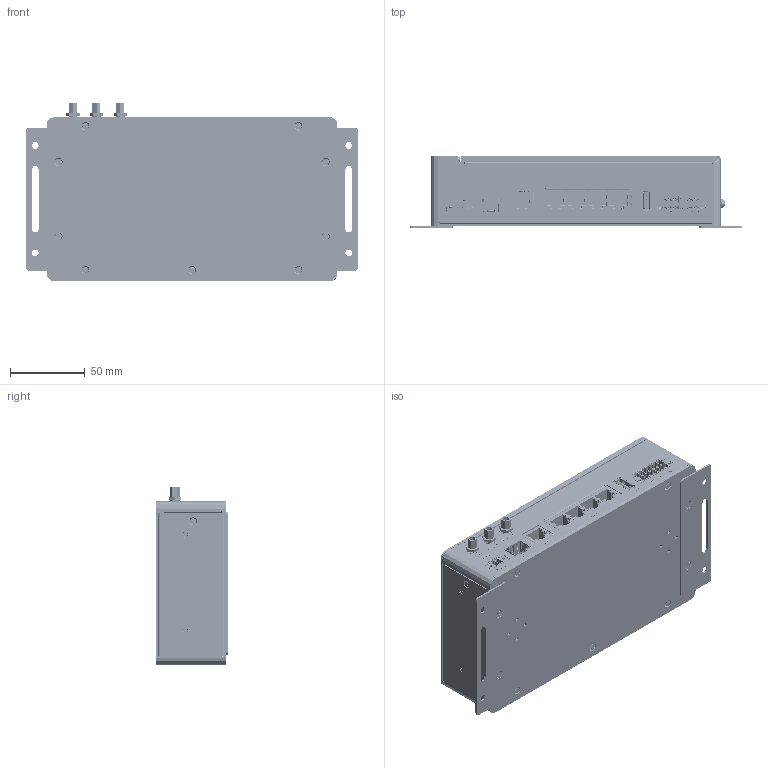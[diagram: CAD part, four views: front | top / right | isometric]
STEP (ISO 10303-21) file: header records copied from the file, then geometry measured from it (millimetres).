
FILE_DESCRIPTION (( 'STEP AP203' ), '1' );
FILE_NAME ('VRM-2021-57-1_ICR-4401W.STEP', '2021-06-04T09:21:01', ( '' ), ( '' ), 'SwSTEP 2.0', 'SolidWorks 2021', '' );
FILE_SCHEMA (( 'CONFIG_CONTROL_DESIGN' ));
Length unit declared in the file: millimetre
Products named in the file (49): 1700004434._默__3; 1700004434._默__2; VRM-2021-57-1_ICR-4401W; Nameplate_ICR-4401_4; 1930001782_S_S D=5 FH=120+M2.5X5L ST BZn_默_; Nameplate_ICR-4401; Thermal pad 17x17 t=1.5mm;k6; Mini pccie Heat sink_ICR-4000; lightpipe tray_ICR-4000; 1930004041-11_默__2; Thermal pad 44x29 t=2mm;K6; Tray_ICR-4000; 1930005199_默_; 1930008006_M3 TORX Screw; 1700004434._默_; Nameplate_ICR-4401_3; 1935130610_默_; 1930000741-11_默__3; 1935130610_默__2; 19310305C0_默_; B-ICR44xx-4.a_3D-2021-02-05_ver2; Thermal pad 14x9 T=2.5mm,K=6; Nameplate_ICR-4401_2; Nameplate_ICR-4401_7; 1700004434._默__4; CPU Heat sink_ICR-4000; lightpipe assembly_ICR-4000; 1930000741-11_默_; sim cover_ICR-4000_ICR-4401; Back cover_ICR-4000_ICR-4401; 1990033157N000_Thermal pad46x30,T=1.5 k4; Top Cover_ICR-4000; led lightpipe; 1930003479_默_; Bottom cover_ICR-4000; 1930004041-11_默__3; Wall Bracket_ICR-4000; 1930000741-11_默__2; Nameplate_ICR-4401_6; Nameplate_ICR-4401_5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
Assembly tree (81 placements, depth 3):
  VRM-2021-57-1_ICR-4401W
    Top Cover_ICR-4000
    CPU Heat sink_ICR-4000
    Mini pccie Heat sink_ICR-4000
    Front cover_ICR-4000_ICR-4401W
    Back cover_ICR-4000_ICR-4401
    Bottom cover_ICR-4000
    sim cover_ICR-4000_ICR-4401
    1930001782_S_S D=5 FH=120+M2.5X5L ST BZn_默_
    Tray_ICR-4000
    Wall Bracket_ICR-4000  x2
    1700004434._默_  x3
      1700004434._默__2
      1700004434._默__4
      1700004434._默_
      1700004434._默__3
    lightpipe assembly_ICR-4000
      led lightpipe
      lightpipe tray_ICR-4000
    ADVANTECH Label_ICR-4000
    1930003479_默_  x10
    19310305C0_默_  x4
    1930005199_默_  x2
    1930000741-11_默_  x4
      1930000741-11_默_
      1930000741-11_默__3
      1930000741-11_默__2
    1930008006_M3 TORX Screw  x9
    1930004041-11_默_  x6
      1930004041-11_默_
      1930004041-11_默__3
      1930004041-11_默__2
    Thermal pad 14x9 T=2.5mm,K=6  x2
    Thermal pad 17x17 t=1.5mm;k6
    Thermal pad 44x29 t=2mm;K6
    1990033157N000_Thermal pad46x30,T=1.5 k4
    Nameplate_ICR-4401
      Nameplate_ICR-4401
      Nameplate_ICR-4401_5
      Nameplate_ICR-4401_7
      Nameplate_ICR-4401_3
      Nameplate_ICR-4401_2
      Nameplate_ICR-4401_4
      Nameplate_ICR-4401_6
    1935130610_默_
      1935130610_默_
      1935130610_默__2
    B-ICR44xx-4.a_3D-2021-02-05_ver2
    Open CASCADE STEP translator 6.8 1.2.1.1.step.IGS_2
Bounding box: 222.7 x 48.2 x 119.7 mm (x, y, z)
Topology: 96 solids, 2173 shells, 13058 faces, 47357 edges, 36164 vertices
Faces by surface type: plane 9885, cylinder 2313, bspline 614, cone 195, torus 33, sphere 18
Entity records: 508882 total; most frequent: CARTESIAN_POINT 135675, DIRECTION 70206, ORIENTED_EDGE 66925, EDGE_CURVE 44981, VECTOR 36074, LINE 36074, VERTEX_POINT 34644, AXIS2_PLACEMENT_3D 17066
